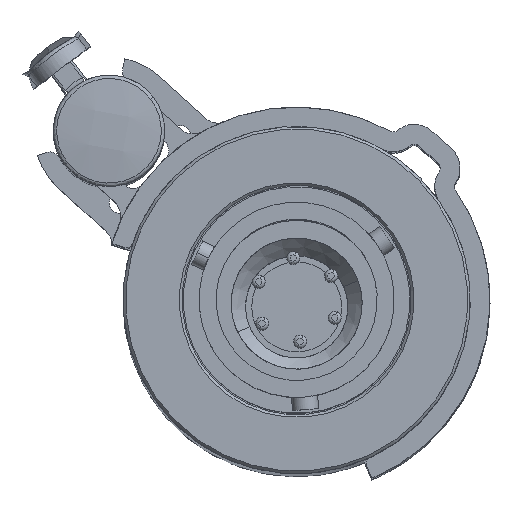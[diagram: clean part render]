
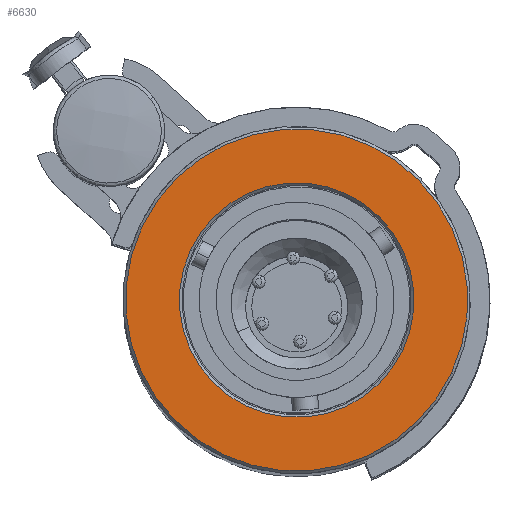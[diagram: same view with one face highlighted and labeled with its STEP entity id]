
A CAD part, top view. The second image highlights one B-rep face of the part: STEP entity #6630.
In plain terms, the highlighted planar face has unit normal (0, 0, 1).
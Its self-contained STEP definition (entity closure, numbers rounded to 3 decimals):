
#483 = DIRECTION ( 'NONE',  ( -0.904, 0.428, 0. ) ) ;
#620 = FACE_OUTER_BOUND ( 'NONE', #9643, .T. ) ;
#647 = DIRECTION ( 'NONE',  ( -0.904, 0.428, 0. ) ) ;
#794 = AXIS2_PLACEMENT_3D ( 'NONE', #5226, #7526, #4367 ) ;
#1087 = DIRECTION ( 'NONE',  ( 0., 0., 1. ) ) ;
#1881 = DIRECTION ( 'NONE',  ( 0., 0., -1. ) ) ;
#1915 = CIRCLE ( 'NONE', #7561, 13.05 ) ;
#2047 = DIRECTION ( 'NONE',  ( 0., 0., -1. ) ) ;
#2766 = ORIENTED_EDGE ( 'NONE', *, *, #7506, .T. ) ;
#2792 = EDGE_CURVE ( 'NONE', #9728, #3295, #9593, .T. ) ;
#2924 = CARTESIAN_POINT ( 'NONE',  ( -11.795, 5.584, 303.317 ) ) ;
#3295 = VERTEX_POINT ( 'NONE', #9869 ) ;
#3461 = CARTESIAN_POINT ( 'NONE',  ( 0., 0., 303.317 ) ) ;
#3649 = CARTESIAN_POINT ( 'NONE',  ( 8.089, -3.829, 303.317 ) ) ;
#4015 = AXIS2_PLACEMENT_3D ( 'NONE', #7494, #2047, #647 ) ;
#4367 = DIRECTION ( 'NONE',  ( -0.904, 0.428, 0. ) ) ;
#4465 = PLANE ( 'NONE',  #794 ) ;
#4663 = ORIENTED_EDGE ( 'NONE', *, *, #5900, .T. ) ;
#4955 = EDGE_CURVE ( 'NONE', #3295, #9728, #7547, .T. ) ;
#5226 = CARTESIAN_POINT ( 'NONE',  ( -5.348, -11.298, 303.317 ) ) ;
#5587 = AXIS2_PLACEMENT_3D ( 'NONE', #7281, #1881, #483 ) ;
#5628 = DIRECTION ( 'NONE',  ( 0., 0., 1. ) ) ;
#5643 = AXIS2_PLACEMENT_3D ( 'NONE', #6372, #5628, #7172 ) ;
#5900 = EDGE_CURVE ( 'NONE', #7850, #8063, #1915, .T. ) ;
#6175 = CARTESIAN_POINT ( 'NONE',  ( 11.795, -5.584, 303.317 ) ) ;
#6288 = CIRCLE ( 'NONE', #5643, 13.05 ) ;
#6372 = CARTESIAN_POINT ( 'NONE',  ( 0., 0., 303.317 ) ) ;
#6630 = ADVANCED_FACE ( 'NONE', ( #620, #8121 ), #4465, .T. ) ;
#6763 = ORIENTED_EDGE ( 'NONE', *, *, #4955, .T. ) ;
#7129 = EDGE_LOOP ( 'NONE', ( #6763, #9225 ) ) ;
#7172 = DIRECTION ( 'NONE',  ( -0.904, 0.428, 0. ) ) ;
#7281 = CARTESIAN_POINT ( 'NONE',  ( 0., 0., 303.317 ) ) ;
#7494 = CARTESIAN_POINT ( 'NONE',  ( 0., 0., 303.317 ) ) ;
#7506 = EDGE_CURVE ( 'NONE', #8063, #7850, #6288, .T. ) ;
#7526 = DIRECTION ( 'NONE',  ( 0., 0., 1. ) ) ;
#7547 = CIRCLE ( 'NONE', #4015, 8.95 ) ;
#7561 = AXIS2_PLACEMENT_3D ( 'NONE', #3461, #1087, #8904 ) ;
#7850 = VERTEX_POINT ( 'NONE', #6175 ) ;
#8063 = VERTEX_POINT ( 'NONE', #2924 ) ;
#8121 = FACE_BOUND ( 'NONE', #7129, .T. ) ;
#8904 = DIRECTION ( 'NONE',  ( -0.904, 0.428, 0. ) ) ;
#9225 = ORIENTED_EDGE ( 'NONE', *, *, #2792, .T. ) ;
#9593 = CIRCLE ( 'NONE', #5587, 8.95 ) ;
#9643 = EDGE_LOOP ( 'NONE', ( #4663, #2766 ) ) ;
#9728 = VERTEX_POINT ( 'NONE', #3649 ) ;
#9869 = CARTESIAN_POINT ( 'NONE',  ( -8.089, 3.829, 303.317 ) ) ;
